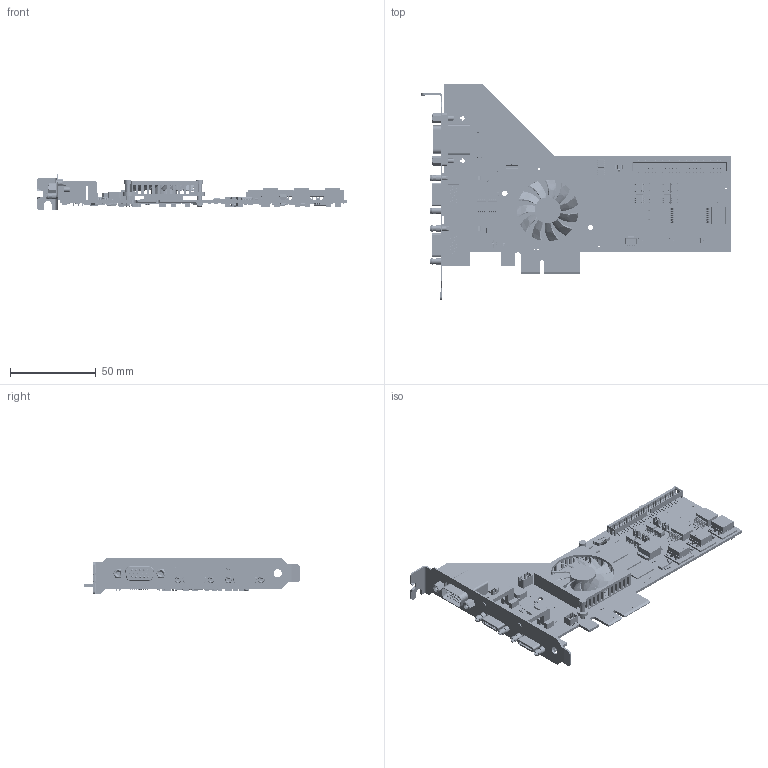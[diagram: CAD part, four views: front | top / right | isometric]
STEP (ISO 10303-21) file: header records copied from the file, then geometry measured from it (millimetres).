
FILE_DESCRIPTION( ( 'Unknown' ), '1' );
FILE_NAME( 'Q:/2003/Product3DModels/mm-ap20c04-0061-0301.stp', 'Unknown', ( 'Unknown' ), ( 'Unknown' ), 'PSStep 17.0.49', 'Unknown', ' ' );
FILE_SCHEMA( ( 'AUTOMOTIVE_DESIGN { 1 0 10303 214 1 1 1 1 }' ) );
Length unit declared in the file: millimetre
Products named in the file (585): SW3dPS-TO263-3S_453496017; SW3dPS-TO263-3S_Extruded18; SW3dPS-TO263-3S_453494353; SW3dPS-TO263-3S_Extruded15; SW3dPS-TO263-3S_453494225; SW3dPS-TO263-3S_Extruded17; SW3dPS-TO263-3S_Free-Models8; SW3dPS-TO263-3S_Free-Models9; SW3dPS-TO263-3S_BODY5; SW3dPS-TO263-3S_Board6; SW3dPS-TO263-3S_BODY4; SW3dPS-TO263-3S_Board7; SW3dPS-TO263-3S_453496145; SW3dPS-TO263-3S_Extruded13; SW3dPS-TO263-3S_Free-Models6; SW3dPS-TO263-3S_Free-Models7; SW3dPS-TO263-3S_450154961; SW3dPS-TO263-3S_Extruded11; SW3dPS-TO263-3S_PIN1; SW3dPS-TO263-3S_Board5; SW3dPS-TO263-3S_450154833; SW3dPS-TO263-3S_Extruded21; SW3dPS-TO263-3S_BODY3; SW3dPS-TO263-3S_Board8; SW3dPS-TO263-3S_450155089; SW3dPS-TO263-3S_Extruded19; SW3dPS-TO263-3S_450156369; SW3dPS-TO263-3S_Extruded16; SW3dPS-TO263-3S_450155217; SW3dPS-TO263-3S_Extruded12; SW3dPS-TO263-3S_450155473; SW3dPS-TO263-3S_Extruded20; SW3dPS-TO263-3S_450155985; SW3dPS-TO263-3S_Extruded14; SW3dPS-TO263-3S_449923505; SW3dPS-TO263-3S_Cylinder1; M16A_ASM_24_ASM; BODY_M16A_17; LEAD_M16A_42; SW3dPS-TO263-3S_Free-Models5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
Assembly tree (1040 placements, depth 10):
  Assem1
    Board
    L3-595
    L3-697
    G-493-243U  x5
    G-753-733N
    G-555-772D  x4
    G-085-530T  x2
    L9
      CR1608-0603
    J14
      ZF5S-10-01-X-WT
    U34
      SOT223-5
    RP36
      TC164
    RP35
      TC164
    RP34
      TC164
    R69
      CR1005-0402
    R57
      CR1005-0402
    C44
      RES_0603-0201
    SP23
      SLP1616P6
      1059565944
        Extruded
    U28
      DRC_(S-PVSON-N10)
        User_Library-DRC_(S-PVSON-N10)-1_DRC_Koerper
        User_Library-DRC_(S-PVSON-N10)-1_DRC_PINS
    U27
      DRC_(S-PVSON-N10)
        User_Library-DRC_(S-PVSON-N10)-1_DRC_Koerper
        User_Library-DRC_(S-PVSON-N10)-1_DRC_PINS
    R188
      CR1005-0402
    R187
      CR1005-0402
    R185
      LVK12
    R184
      CR1005-0402
    R183
      LVK12
    L6
      CR1608-0603
    L2
      CR1608-0603
    U39
      1059564856
        Extruded
    U38
      1059564856
        Extruded
    R67
      CR1005-0402
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Bounding box: 181.14 x 126.37 x 21.48 mm (x, y, z)
Surface area: 63084.8 mm2 (no closed solid volume)
Topology: 0 solids, 19015 shells, 19015 faces, 99009 edges, 98496 vertices
Faces by surface type: plane 14988, cylinder 3348, sphere 274, extrusion 264, bspline 64, torus 39, cone 38
Full cylindrical faces by diameter (mm): 0.127 x12, 0.4 x2, 0.432 x4, 0.5 x2, 0.527 x1, 0.6 x15, 0.65 x52, 0.7 x2, 0.8 x20, 1 x31, 1.1 x3, 1.194 x4, 1.567 x4, 2 x4, 2.013 x4, 2.156 x2, 2.3 x4, 2.7 x4, 2.8 x4, 2.84 x2, 3 x8, 3.2 x10, 3.8 x8, 4.1 x2, 4.75 x1, 6.696 x1, 6.7 x1, 15.2 x1, 37 x1, 37.24 x1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
Entity records: 467536 total; most frequent: CARTESIAN_POINT 97908, DIRECTION 62438, VERTEX_POINT 39434, ORIENTED_EDGE 39432, EDGE_CURVE 39432, VECTOR 32558, LINE 32478, AXIS2_PLACEMENT_3D 14940
